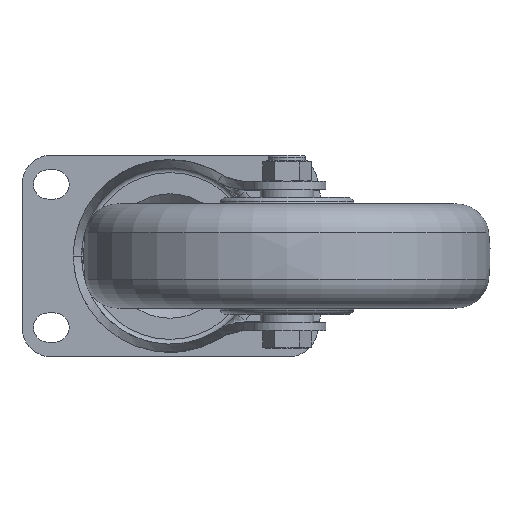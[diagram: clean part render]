
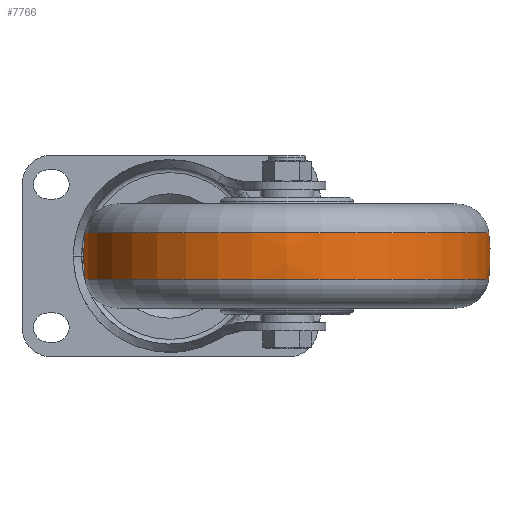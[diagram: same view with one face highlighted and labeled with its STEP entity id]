
A CAD part, front view. The second image highlights one B-rep face of the part: STEP entity #7766.
In plain terms, the highlighted free-form (B-spline) face has degree [3, 3] with [7, 4] control points.
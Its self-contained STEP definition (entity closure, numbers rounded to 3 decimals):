
#7158=CARTESIAN_POINT('',(-7.2,0.,0.));
#7159=DIRECTION('',(-1.,0.,0.));
#7160=DIRECTION('',(0.,1.,0.));
#7161=AXIS2_PLACEMENT_3D('',#7158,#7159,#7160);
#7173=CARTESIAN_POINT('',(0.,2.5,0.));
#7174=DIRECTION('',(0.,0.,1.));
#7175=DIRECTION('',(0.12,0.993,0.));
#7176=AXIS2_PLACEMENT_3D('',#7173,#7174,#7175);
#7178=CARTESIAN_POINT('',(0.,-2.5,0.));
#7179=DIRECTION('',(0.,0.,-1.));
#7180=DIRECTION('',(0.12,-0.993,0.));
#7181=AXIS2_PLACEMENT_3D('',#7178,#7179,#7180);
#7183=CARTESIAN_POINT('',(7.2,0.,0.));
#7184=DIRECTION('',(-1.,0.,0.));
#7185=DIRECTION('',(0.,1.,0.));
#7186=AXIS2_PLACEMENT_3D('',#7183,#7184,#7185);
#7407=CARTESIAN_POINT('',(-7.2,62.066,0.));
#7409=VERTEX_POINT('',#7407);
#7411=CARTESIAN_POINT('',(-7.2,-62.066,
0.));
#7413=VERTEX_POINT('',#7411);
#7440=CARTESIAN_POINT('',(7.2,62.066,0.));
#7442=VERTEX_POINT('',#7440);
#7444=CARTESIAN_POINT('',(7.2,-62.066,
0.));
#7446=VERTEX_POINT('',#7444);
#7730=CARTESIAN_POINT('',(-7.487,-61.909,
3.895));
#7731=CARTESIAN_POINT('',(-2.509,-62.533,
3.934));
#7732=CARTESIAN_POINT('',(2.509,-62.533,3.934));
#7733=CARTESIAN_POINT('',(7.487,-61.909,3.895));
#7734=CARTESIAN_POINT('',(-7.487,-64.306,
-34.204));
#7735=CARTESIAN_POINT('',(-2.509,-64.955,
-34.549));
#7736=CARTESIAN_POINT('',(2.509,-64.955,
-34.549));
#7737=CARTESIAN_POINT('',(7.487,-64.306,
-34.204));
#7738=CARTESIAN_POINT('',(-7.487,-38.174,
-62.031));
#7739=CARTESIAN_POINT('',(-2.509,-38.559,
-62.657));
#7740=CARTESIAN_POINT('',(2.509,-38.559,
-62.657));
#7741=CARTESIAN_POINT('',(7.487,-38.174,
-62.031));
#7742=CARTESIAN_POINT('',(-7.487,0.,
-62.031));
#7743=CARTESIAN_POINT('',(-2.509,0.,
-62.657));
#7744=CARTESIAN_POINT('',(2.509,0.,
-62.657));
#7745=CARTESIAN_POINT('',(7.487,0.,
-62.031));
#7746=CARTESIAN_POINT('',(-7.487,38.174,
-62.031));
#7747=CARTESIAN_POINT('',(-2.509,38.559,
-62.657));
#7748=CARTESIAN_POINT('',(2.509,38.559,-62.657));
#7749=CARTESIAN_POINT('',(7.487,38.174,-62.031));
#7750=CARTESIAN_POINT('',(-7.487,64.306,
-34.204));
#7751=CARTESIAN_POINT('',(-2.509,64.955,
-34.549));
#7752=CARTESIAN_POINT('',(2.509,64.955,-34.549));
#7753=CARTESIAN_POINT('',(7.487,64.306,-34.204));
#7754=CARTESIAN_POINT('',(-7.487,61.909,3.895));
#7755=CARTESIAN_POINT('',(-2.509,62.533,3.934));
#7756=CARTESIAN_POINT('',(2.509,62.533,3.934));
#7757=CARTESIAN_POINT('',(7.487,61.909,3.895));
#7758=(BOUNDED_SURFACE()B_SPLINE_SURFACE(3,3,((#7730,#7731,#7732,#7733),(#7734,
#7735,#7736,#7737),(#7738,#7739,#7740,#7741),(#7742,#7743,#7744,#7745),(#7746,
#7747,#7748,#7749),(#7750,#7751,#7752,#7753),(#7754,#7755,#7756,#7757)),
.UNSPECIFIED.,.F.,.F.,.F.)B_SPLINE_SURFACE_WITH_KNOTS((4,3,4),(4,4),(0.,1.,
2.),(0.,1.),.UNSPECIFIED.)GEOMETRIC_REPRESENTATION_ITEM()RATIONAL_B_SPLINE_SURFACE(((1.192,1.186,1.186,1.192),(
0.941,0.936,0.936,0.941),(
0.941,0.936,0.936,0.941),(
1.192,1.186,1.186,1.192),(
0.941,0.936,0.936,0.941),(
0.941,0.936,0.936,0.941),(
1.192,1.186,1.186,1.192)))REPRESENTATION_ITEM('')SURFACE());
#7759=ORIENTED_EDGE('',*,*,#7720,.T.);
#7760=ORIENTED_EDGE('',*,*,#7673,.T.);
#7761=ORIENTED_EDGE('',*,*,#7724,.F.);
#7763=ORIENTED_EDGE('',*,*,#7762,.F.);
#7764=EDGE_LOOP('',(#7759,#7760,#7761,#7763));
#7765=FACE_OUTER_BOUND('',#7764,.F.);
#7162=CIRCLE('',#7161,62.066);
#7177=CIRCLE('',#7176,60.);
#7182=CIRCLE('',#7181,60.);
#7187=CIRCLE('',#7186,62.066);
#7673=EDGE_CURVE('',#7409,#7413,#7162,.T.);
#7720=EDGE_CURVE('',#7442,#7409,#7177,.T.);
#7724=EDGE_CURVE('',#7446,#7413,#7182,.T.);
#7762=EDGE_CURVE('',#7442,#7446,#7187,.T.);
#7766=ADVANCED_FACE('',(#7765),#7758,.T.);
